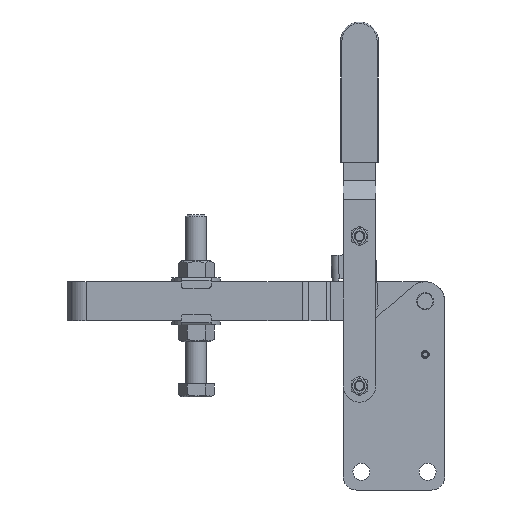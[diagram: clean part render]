
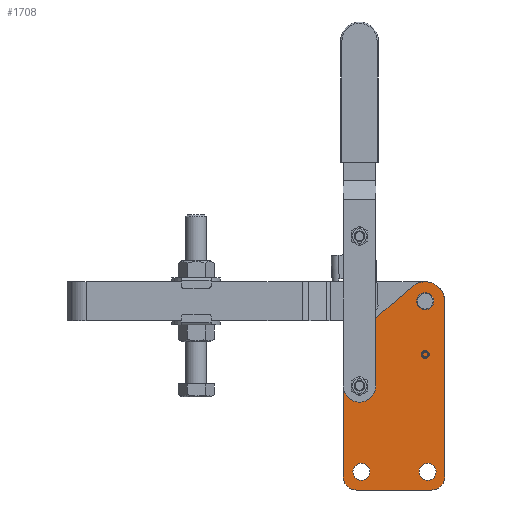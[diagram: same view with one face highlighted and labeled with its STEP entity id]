
A CAD part, front view. The second image highlights one B-rep face of the part: STEP entity #1708.
In plain terms, the highlighted planar face has unit normal (0, -1, 0).
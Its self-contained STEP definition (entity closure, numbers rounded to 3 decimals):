
#1593=CARTESIAN_POINT('Axis2P3D Location',(0.,-10.,0.)) ;
#1598=CARTESIAN_POINT('Axis2P3D Location',(176.032,-10.,145.)) ;
#1602=CARTESIAN_POINT('Cartesian Point',(191.032,-10.,145.)) ;
#1604=CARTESIAN_POINT('Cartesian Point',(166.269,-10.,156.388)) ;
#1607=CARTESIAN_POINT('Line Origine',(152.151,-10.,144.284)) ;
#1611=CARTESIAN_POINT('Cartesian Point',(138.032,-10.,132.181)) ;
#1614=CARTESIAN_POINT('Line Origine',(127.714,-10.,123.335)) ;
#1618=CARTESIAN_POINT('Cartesian Point',(117.396,-10.,114.49)) ;
#1621=CARTESIAN_POINT('Axis2P3D Location',(125.532,-10.,105.)) ;
#1625=CARTESIAN_POINT('Cartesian Point',(113.032,-10.,105.)) ;
#1628=CARTESIAN_POINT('Line Origine',(113.032,-10.,57.5)) ;
#1632=CARTESIAN_POINT('Cartesian Point',(113.032,-10.,10.)) ;
#1635=CARTESIAN_POINT('Axis2P3D Location',(123.032,-10.,10.)) ;
#1639=CARTESIAN_POINT('Cartesian Point',(123.032,-10.,0.)) ;
#1642=CARTESIAN_POINT('Line Origine',(152.032,-10.,0.)) ;
#1646=CARTESIAN_POINT('Cartesian Point',(181.032,-10.,0.)) ;
#1649=CARTESIAN_POINT('Axis2P3D Location',(181.032,-10.,10.)) ;
#1653=CARTESIAN_POINT('Cartesian Point',(191.032,-10.,10.)) ;
#1656=CARTESIAN_POINT('Line Origine',(191.032,-10.,77.5)) ;
#1672=CARTESIAN_POINT('Axis2P3D Location',(127.032,-10.,14.)) ;
#1676=CARTESIAN_POINT('Cartesian Point',(133.532,-10.,14.)) ;
#1678=CARTESIAN_POINT('Cartesian Point',(120.532,-10.,14.)) ;
#1681=CARTESIAN_POINT('Axis2P3D Location',(127.032,-10.,14.)) ;
#1690=CARTESIAN_POINT('Axis2P3D Location',(177.832,-10.,14.)) ;
#1694=CARTESIAN_POINT('Cartesian Point',(184.332,-10.,14.)) ;
#1696=CARTESIAN_POINT('Cartesian Point',(171.332,-10.,14.)) ;
#1699=CARTESIAN_POINT('Axis2P3D Location',(177.832,-10.,14.)) ;
#1594=DIRECTION('Axis2P3D Direction',(0.,1.,0.)) ;
#1595=DIRECTION('Axis2P3D XDirection',(0.,0.,-1.)) ;
#1599=DIRECTION('Axis2P3D Direction',(0.,1.,0.)) ;
#1608=DIRECTION('Vector Direction',(0.759,0.,0.651)) ;
#1615=DIRECTION('Vector Direction',(0.759,0.,0.651)) ;
#1622=DIRECTION('Axis2P3D Direction',(0.,1.,0.)) ;
#1629=DIRECTION('Vector Direction',(0.,0.,1.)) ;
#1636=DIRECTION('Axis2P3D Direction',(0.,1.,0.)) ;
#1643=DIRECTION('Vector Direction',(1.,0.,0.)) ;
#1650=DIRECTION('Axis2P3D Direction',(0.,1.,0.)) ;
#1657=DIRECTION('Vector Direction',(0.,0.,1.)) ;
#1673=DIRECTION('Axis2P3D Direction',(0.,1.,0.)) ;
#1682=DIRECTION('Axis2P3D Direction',(0.,1.,0.)) ;
#1691=DIRECTION('Axis2P3D Direction',(0.,1.,0.)) ;
#1700=DIRECTION('Axis2P3D Direction',(0.,1.,0.)) ;
#1596=AXIS2_PLACEMENT_3D('Plane Axis2P3D',#1593,#1594,#1595) ;
#1600=AXIS2_PLACEMENT_3D('Circle Axis2P3D',#1598,#1599,$) ;
#1623=AXIS2_PLACEMENT_3D('Circle Axis2P3D',#1621,#1622,$) ;
#1637=AXIS2_PLACEMENT_3D('Circle Axis2P3D',#1635,#1636,$) ;
#1651=AXIS2_PLACEMENT_3D('Circle Axis2P3D',#1649,#1650,$) ;
#1674=AXIS2_PLACEMENT_3D('Circle Axis2P3D',#1672,#1673,$) ;
#1683=AXIS2_PLACEMENT_3D('Circle Axis2P3D',#1681,#1682,$) ;
#1692=AXIS2_PLACEMENT_3D('Circle Axis2P3D',#1690,#1691,$) ;
#1701=AXIS2_PLACEMENT_3D('Circle Axis2P3D',#1699,#1700,$) ;
#1662=ORIENTED_EDGE('Oriented Edge',*,*,#1606,.T.) ;
#1663=ORIENTED_EDGE('Oriented Edge',*,*,#1613,.F.) ;
#1664=ORIENTED_EDGE('Oriented Edge',*,*,#1620,.F.) ;
#1665=ORIENTED_EDGE('Oriented Edge',*,*,#1627,.T.) ;
#1666=ORIENTED_EDGE('Oriented Edge',*,*,#1634,.F.) ;
#1667=ORIENTED_EDGE('Oriented Edge',*,*,#1641,.T.) ;
#1668=ORIENTED_EDGE('Oriented Edge',*,*,#1648,.T.) ;
#1669=ORIENTED_EDGE('Oriented Edge',*,*,#1655,.T.) ;
#1670=ORIENTED_EDGE('Oriented Edge',*,*,#1660,.T.) ;
#1687=ORIENTED_EDGE('Oriented Edge',*,*,#1680,.F.) ;
#1688=ORIENTED_EDGE('Oriented Edge',*,*,#1685,.F.) ;
#1705=ORIENTED_EDGE('Oriented Edge',*,*,#1698,.F.) ;
#1706=ORIENTED_EDGE('Oriented Edge',*,*,#1703,.F.) ;
#1689=FACE_BOUND('Face Bound',#1686,.T.) ;
#1707=FACE_BOUND('Face Bound',#1704,.T.) ;
#1609=VECTOR('Line Direction',#1608,1.) ;
#1616=VECTOR('Line Direction',#1615,1.) ;
#1630=VECTOR('Line Direction',#1629,1.) ;
#1644=VECTOR('Line Direction',#1643,1.) ;
#1658=VECTOR('Line Direction',#1657,1.) ;
#1708=ADVANCED_FACE('',(#1671,#1689,#1707),#1597,.F.) ;
#1601=CIRCLE('generated circle',#1600,15.) ;
#1624=CIRCLE('generated circle',#1623,12.5) ;
#1638=CIRCLE('generated circle',#1637,10.) ;
#1652=CIRCLE('generated circle',#1651,10.) ;
#1675=CIRCLE('generated circle',#1674,6.5) ;
#1684=CIRCLE('generated circle',#1683,6.5) ;
#1693=CIRCLE('generated circle',#1692,6.5) ;
#1702=CIRCLE('generated circle',#1701,6.5) ;
#1606=EDGE_CURVE('',#1603,#1605,#1601,.F.) ;
#1613=EDGE_CURVE('',#1612,#1605,#1610,.T.) ;
#1620=EDGE_CURVE('',#1619,#1612,#1617,.T.) ;
#1627=EDGE_CURVE('',#1619,#1626,#1624,.F.) ;
#1634=EDGE_CURVE('',#1633,#1626,#1631,.T.) ;
#1641=EDGE_CURVE('',#1633,#1640,#1638,.F.) ;
#1648=EDGE_CURVE('',#1640,#1647,#1645,.T.) ;
#1655=EDGE_CURVE('',#1647,#1654,#1652,.F.) ;
#1660=EDGE_CURVE('',#1654,#1603,#1659,.T.) ;
#1680=EDGE_CURVE('',#1677,#1679,#1675,.F.) ;
#1685=EDGE_CURVE('',#1679,#1677,#1684,.F.) ;
#1698=EDGE_CURVE('',#1695,#1697,#1693,.F.) ;
#1703=EDGE_CURVE('',#1697,#1695,#1702,.F.) ;
#1661=EDGE_LOOP('Oriented Loop',(#1662,#1663,#1664,#1665,#1666,#1667,#1668,#1669,#1670)) ;
#1686=EDGE_LOOP('Oriented Loop',(#1687,#1688)) ;
#1704=EDGE_LOOP('Oriented Loop',(#1705,#1706)) ;
#1671=FACE_OUTER_BOUND('Face Bound',#1661,.T.) ;
#1610=LINE('Line',#1607,#1609) ;
#1617=LINE('Line',#1614,#1616) ;
#1631=LINE('Line',#1628,#1630) ;
#1645=LINE('Line',#1642,#1644) ;
#1659=LINE('Line',#1656,#1658) ;
#1597=PLANE('Plane',#1596) ;
#1603=VERTEX_POINT('Vertex Point',#1602) ;
#1605=VERTEX_POINT('Vertex Point',#1604) ;
#1612=VERTEX_POINT('Vertex Point',#1611) ;
#1619=VERTEX_POINT('Vertex Point',#1618) ;
#1626=VERTEX_POINT('Vertex Point',#1625) ;
#1633=VERTEX_POINT('Vertex Point',#1632) ;
#1640=VERTEX_POINT('Vertex Point',#1639) ;
#1647=VERTEX_POINT('Vertex Point',#1646) ;
#1654=VERTEX_POINT('Vertex Point',#1653) ;
#1677=VERTEX_POINT('Vertex Point',#1676) ;
#1679=VERTEX_POINT('Vertex Point',#1678) ;
#1695=VERTEX_POINT('Vertex Point',#1694) ;
#1697=VERTEX_POINT('Vertex Point',#1696) ;
